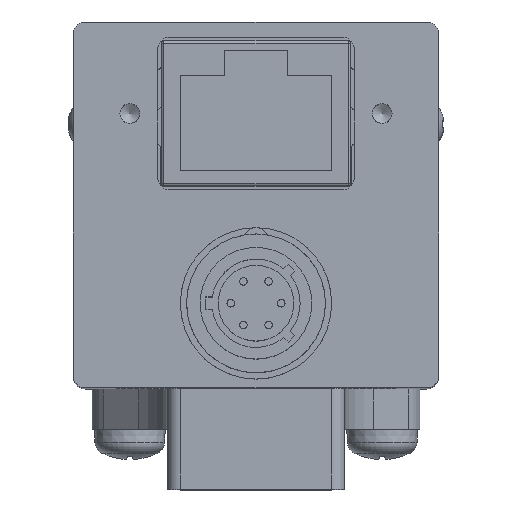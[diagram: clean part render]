
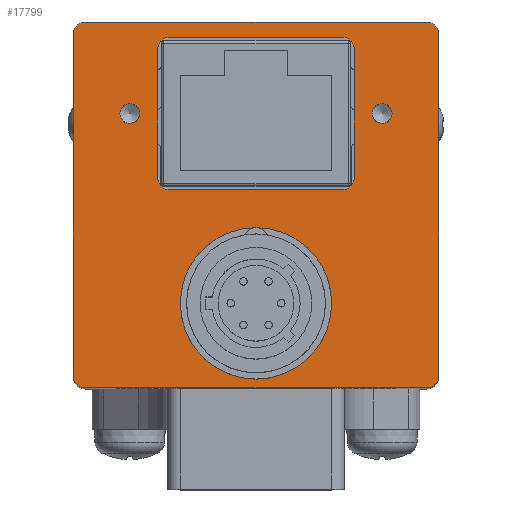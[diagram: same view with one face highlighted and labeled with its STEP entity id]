
A CAD part, top view. The second image highlights one B-rep face of the part: STEP entity #17799.
In plain terms, the highlighted planar face has unit normal (0, 0, 1).
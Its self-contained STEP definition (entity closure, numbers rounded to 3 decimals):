
#262=LINE('',#26658,#1434);
#301=LINE('',#26868,#1473);
#308=LINE('',#26882,#1480);
#311=LINE('',#26890,#1483);
#313=LINE('',#26896,#1485);
#337=LINE('',#26950,#1509);
#338=LINE('',#26953,#1510);
#339=LINE('',#26954,#1511);
#1434=VECTOR('',#21277,27.);
#1473=VECTOR('',#21414,13.6);
#1480=VECTOR('',#21427,10.1);
#1483=VECTOR('',#21436,13.6);
#1485=VECTOR('',#21444,10.1);
#1509=VECTOR('',#21506,27.);
#1510=VECTOR('',#21509,27.);
#1511=VECTOR('',#21510,27.);
#2920=PLANE('',#18997);
#3693=FACE_BOUND('',#5203,.T.);
#3694=FACE_BOUND('',#5204,.T.);
#3695=FACE_BOUND('',#5205,.T.);
#3696=FACE_BOUND('',#5206,.T.);
#4167=FACE_OUTER_BOUND('',#5202,.T.);
#5202=EDGE_LOOP('',(#12169,#12170,#12171,#12172,#12173,#12174,#12175,#12176));
#5203=EDGE_LOOP('',(#12177));
#5204=EDGE_LOOP('',(#12178));
#5205=EDGE_LOOP('',(#12179));
#5206=EDGE_LOOP('',(#12180,#12181,#12182,#12183,#12184,#12185,#12186,#12187));
#6532=CIRCLE('',#18920,1.);
#6533=CIRCLE('',#18923,1.);
#6538=CIRCLE('',#18934,0.784);
#6540=CIRCLE('',#18938,0.784);
#6548=CIRCLE('',#18964,6.);
#6551=CIRCLE('',#18969,1.);
#6552=CIRCLE('',#18972,1.);
#6553=CIRCLE('',#18975,1.);
#6554=CIRCLE('',#18978,1.);
#6557=CIRCLE('',#18998,1.);
#6558=CIRCLE('',#18999,1.);
#7566=VERTEX_POINT('',#26650);
#7567=VERTEX_POINT('',#26652);
#7568=VERTEX_POINT('',#26656);
#7569=VERTEX_POINT('',#26660);
#7580=VERTEX_POINT('',#26773);
#7582=VERTEX_POINT('',#26779);
#7600=VERTEX_POINT('',#26848);
#7604=VERTEX_POINT('',#26861);
#7605=VERTEX_POINT('',#26863);
#7606=VERTEX_POINT('',#26867);
#7609=VERTEX_POINT('',#26876);
#7610=VERTEX_POINT('',#26877);
#7611=VERTEX_POINT('',#26884);
#7612=VERTEX_POINT('',#26885);
#7613=VERTEX_POINT('',#26892);
#7622=VERTEX_POINT('',#26946);
#7623=VERTEX_POINT('',#26947);
#7624=VERTEX_POINT('',#26949);
#7625=VERTEX_POINT('',#26951);
#9316=EDGE_CURVE('',#7566,#7567,#6532,.T.);
#9319=EDGE_CURVE('',#7566,#7568,#262,.T.);
#9321=EDGE_CURVE('',#7569,#7568,#6533,.T.);
#9334=EDGE_CURVE('',#7580,#7580,#6538,.T.);
#9336=EDGE_CURVE('',#7582,#7582,#6540,.T.);
#9371=EDGE_CURVE('',#7600,#7600,#6548,.T.);
#9379=EDGE_CURVE('',#7604,#7605,#6551,.T.);
#9381=EDGE_CURVE('',#7606,#7605,#301,.T.);
#9386=EDGE_CURVE('',#7609,#7610,#6552,.T.);
#9389=EDGE_CURVE('',#7604,#7610,#308,.T.);
#9390=EDGE_CURVE('',#7611,#7612,#6553,.T.);
#9393=EDGE_CURVE('',#7609,#7612,#311,.T.);
#9394=EDGE_CURVE('',#7606,#7613,#6554,.T.);
#9396=EDGE_CURVE('',#7611,#7613,#313,.T.);
#9422=EDGE_CURVE('',#7622,#7623,#6557,.T.);
#9423=EDGE_CURVE('',#7622,#7624,#337,.T.);
#9424=EDGE_CURVE('',#7625,#7624,#6558,.T.);
#9425=EDGE_CURVE('',#7625,#7567,#338,.T.);
#9426=EDGE_CURVE('',#7569,#7623,#339,.T.);
#12169=ORIENTED_EDGE('',*,*,#9422,.F.);
#12170=ORIENTED_EDGE('',*,*,#9423,.T.);
#12171=ORIENTED_EDGE('',*,*,#9424,.F.);
#12172=ORIENTED_EDGE('',*,*,#9425,.T.);
#12173=ORIENTED_EDGE('',*,*,#9316,.F.);
#12174=ORIENTED_EDGE('',*,*,#9319,.T.);
#12175=ORIENTED_EDGE('',*,*,#9321,.F.);
#12176=ORIENTED_EDGE('',*,*,#9426,.T.);
#12177=ORIENTED_EDGE('',*,*,#9334,.T.);
#12178=ORIENTED_EDGE('',*,*,#9336,.T.);
#12179=ORIENTED_EDGE('',*,*,#9371,.T.);
#12180=ORIENTED_EDGE('',*,*,#9396,.T.);
#12181=ORIENTED_EDGE('',*,*,#9394,.F.);
#12182=ORIENTED_EDGE('',*,*,#9381,.T.);
#12183=ORIENTED_EDGE('',*,*,#9379,.F.);
#12184=ORIENTED_EDGE('',*,*,#9389,.T.);
#12185=ORIENTED_EDGE('',*,*,#9386,.F.);
#12186=ORIENTED_EDGE('',*,*,#9393,.T.);
#12187=ORIENTED_EDGE('',*,*,#9390,.F.);
#17799=ADVANCED_FACE('',(#4167,#3693,#3694,#3695,#3696),#2920,.F.);
#18920=AXIS2_PLACEMENT_3D('',#26653,#21271,#21272);
#18923=AXIS2_PLACEMENT_3D('',#26662,#21281,#21282);
#18934=AXIS2_PLACEMENT_3D('',#26774,#21309,#21310);
#18938=AXIS2_PLACEMENT_3D('',#26780,#21317,#21318);
#18964=AXIS2_PLACEMENT_3D('',#26849,#21394,#21395);
#18969=AXIS2_PLACEMENT_3D('',#26864,#21409,#21410);
#18972=AXIS2_PLACEMENT_3D('',#26878,#21421,#21422);
#18975=AXIS2_PLACEMENT_3D('',#26886,#21430,#21431);
#18978=AXIS2_PLACEMENT_3D('',#26893,#21439,#21440);
#18997=AXIS2_PLACEMENT_3D('',#26945,#21502,#21503);
#18998=AXIS2_PLACEMENT_3D('',#26948,#21504,#21505);
#18999=AXIS2_PLACEMENT_3D('',#26952,#21507,#21508);
#21271=DIRECTION('center_axis',(0.,0.,-1.));
#21272=DIRECTION('ref_axis',(0.707,0.707,0.));
#21277=DIRECTION('',(-1.,0.,0.));
#21281=DIRECTION('center_axis',(0.,0.,-1.));
#21282=DIRECTION('ref_axis',(-0.707,0.707,0.));
#21309=DIRECTION('center_axis',(0.,0.,-1.));
#21310=DIRECTION('ref_axis',(1.,0.,0.));
#21317=DIRECTION('center_axis',(0.,0.,-1.));
#21318=DIRECTION('ref_axis',(1.,0.,0.));
#21394=DIRECTION('center_axis',(0.,0.,-1.));
#21395=DIRECTION('ref_axis',(1.,0.,0.));
#21409=DIRECTION('center_axis',(0.,0.,1.));
#21410=DIRECTION('ref_axis',(0.707,0.707,0.));
#21414=DIRECTION('',(1.,0.,0.));
#21421=DIRECTION('center_axis',(0.,0.,1.));
#21422=DIRECTION('ref_axis',(0.707,-0.707,0.));
#21427=DIRECTION('',(0.,-1.,0.));
#21430=DIRECTION('center_axis',(0.,0.,1.));
#21431=DIRECTION('ref_axis',(-0.707,-0.707,0.));
#21436=DIRECTION('',(-1.,0.,0.));
#21439=DIRECTION('center_axis',(0.,0.,1.));
#21440=DIRECTION('ref_axis',(-0.707,0.707,0.));
#21444=DIRECTION('',(0.,1.,0.));
#21502=DIRECTION('center_axis',(0.,0.,-1.));
#21503=DIRECTION('ref_axis',(-1.,0.,0.));
#21504=DIRECTION('center_axis',(0.,0.,-1.));
#21505=DIRECTION('ref_axis',(-0.707,-0.707,0.));
#21506=DIRECTION('',(1.,0.,0.));
#21507=DIRECTION('center_axis',(0.,0.,-1.));
#21508=DIRECTION('ref_axis',(0.707,-0.707,0.));
#21509=DIRECTION('',(0.,1.,0.));
#21510=DIRECTION('',(0.,-1.,0.));
#26650=CARTESIAN_POINT('',(13.5,14.5,53.2));
#26652=CARTESIAN_POINT('',(14.5,13.5,53.2));
#26653=CARTESIAN_POINT('Origin',(13.5,13.5,53.2));
#26656=CARTESIAN_POINT('',(-13.5,14.5,53.2));
#26658=CARTESIAN_POINT('',(14.5,14.5,53.2));
#26660=CARTESIAN_POINT('',(-14.5,13.5,53.2));
#26662=CARTESIAN_POINT('Origin',(-13.5,13.5,53.2));
#26773=CARTESIAN_POINT('',(10.784,7.25,53.2));
#26774=CARTESIAN_POINT('Origin',(10.,7.25,53.2));
#26779=CARTESIAN_POINT('',(-9.217,7.25,53.2));
#26780=CARTESIAN_POINT('Origin',(-10.,7.25,53.2));
#26848=CARTESIAN_POINT('',(6.,-7.8,53.2));
#26849=CARTESIAN_POINT('Origin',(0.,-7.8,53.2));
#26861=CARTESIAN_POINT('',(7.8,12.3,53.2));
#26863=CARTESIAN_POINT('',(6.8,13.3,53.2));
#26864=CARTESIAN_POINT('Origin',(6.8,12.3,53.2));
#26867=CARTESIAN_POINT('',(-6.8,13.3,53.2));
#26868=CARTESIAN_POINT('',(3.9,13.3,53.2));
#26876=CARTESIAN_POINT('',(6.8,1.2,53.2));
#26877=CARTESIAN_POINT('',(7.8,2.2,53.2));
#26878=CARTESIAN_POINT('Origin',(6.8,2.2,53.2));
#26882=CARTESIAN_POINT('',(7.8,0.6,53.2));
#26884=CARTESIAN_POINT('',(-7.8,2.2,53.2));
#26885=CARTESIAN_POINT('',(-6.8,1.2,53.2));
#26886=CARTESIAN_POINT('Origin',(-6.8,2.2,53.2));
#26890=CARTESIAN_POINT('',(-3.9,1.2,53.2));
#26892=CARTESIAN_POINT('',(-7.8,12.3,53.2));
#26893=CARTESIAN_POINT('Origin',(-6.8,12.3,53.2));
#26896=CARTESIAN_POINT('',(-7.8,6.65,53.2));
#26945=CARTESIAN_POINT('Origin',(0.,0.,
53.2));
#26946=CARTESIAN_POINT('',(-13.5,-14.5,53.2));
#26947=CARTESIAN_POINT('',(-14.5,-13.5,53.2));
#26948=CARTESIAN_POINT('Origin',(-13.5,-13.5,53.2));
#26949=CARTESIAN_POINT('',(13.5,-14.5,53.2));
#26950=CARTESIAN_POINT('',(-14.5,-14.5,53.2));
#26951=CARTESIAN_POINT('',(14.5,-13.5,53.2));
#26952=CARTESIAN_POINT('Origin',(13.5,-13.5,53.2));
#26953=CARTESIAN_POINT('',(14.5,-14.5,53.2));
#26954=CARTESIAN_POINT('',(-14.5,14.5,53.2));
